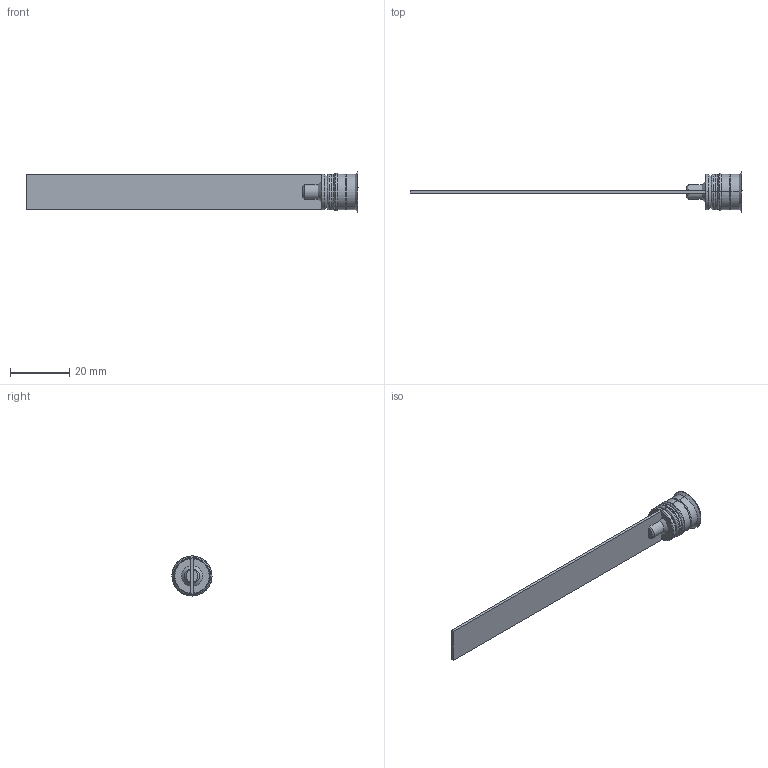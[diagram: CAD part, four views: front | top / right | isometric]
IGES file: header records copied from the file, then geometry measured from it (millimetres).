
Start section: START RECORD GO HERE.
Global section: file name: RL-12Fx100.igs; native system: DASSAULT SYSTEMES CATIA V5 R20 - www.3ds.com; preprocessor: CATIA Version 5 Release 20 ; author: Utente; organization: NB04-ASUS; date: 20210303.200709; units: millimetre
Bounding box: 112.5 x 13.6 x 13.6 mm (x, y, z)
Surface area: 3683.1 mm2 (no closed solid volume)
Topology: 0 solids, 0 shells, 73 faces, 400 edges, 400 vertices
Faces by surface type: revolution 44, plane 29
